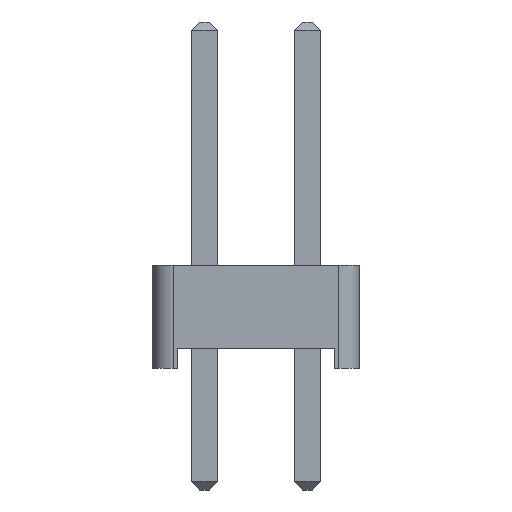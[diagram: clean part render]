
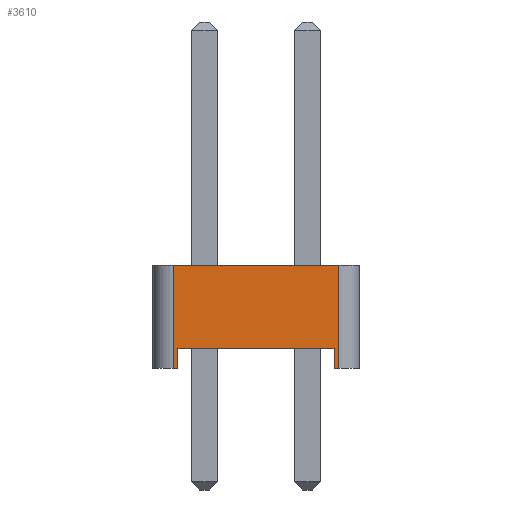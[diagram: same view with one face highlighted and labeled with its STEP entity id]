
A CAD part, left-side view. The second image highlights one B-rep face of the part: STEP entity #3610.
In plain terms, the highlighted planar face has unit normal (-1, 0, 0).
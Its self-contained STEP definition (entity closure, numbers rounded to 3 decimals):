
#3350 = VERTEX_POINT('',#3351);
#3351 = CARTESIAN_POINT('',(-1.27,2.04,0.));
#3359 = PLANE('',#3360);
#3360 = AXIS2_PLACEMENT_3D('',#3361,#3362,#3363);
#3361 = CARTESIAN_POINT('',(0.,0.,0.));
#3362 = DIRECTION('',(-0.,-0.,-1.));
#3363 = DIRECTION('',(-1.,0.,0.));
#3375 = CYLINDRICAL_SURFACE('',#3376,0.5);
#3376 = AXIS2_PLACEMENT_3D('',#3377,#3378,#3379);
#3377 = CARTESIAN_POINT('',(-0.77,2.04,0.));
#3378 = DIRECTION('',(0.,0.,1.));
#3379 = DIRECTION('',(0.,1.,0.));
#3477 = VERTEX_POINT('',#3478);
#3478 = CARTESIAN_POINT('',(-1.27,1.94,0.));
#3492 = PLANE('',#3493);
#3493 = AXIS2_PLACEMENT_3D('',#3494,#3495,#3496);
#3494 = CARTESIAN_POINT('',(1.27,1.94,0.));
#3495 = DIRECTION('',(0.,-1.,0.));
#3496 = DIRECTION('',(-1.,0.,0.));
#3504 = EDGE_CURVE('',#3477,#3350,#3505,.T.);
#3505 = SURFACE_CURVE('',#3506,(#3510,#3517),.PCURVE_S1.);
#3506 = LINE('',#3507,#3508);
#3507 = CARTESIAN_POINT('',(-1.27,-2.54,0.));
#3508 = VECTOR('',#3509,1.);
#3509 = DIRECTION('',(0.,1.,0.));
#3510 = PCURVE('',#3359,#3511);
#3511 = DEFINITIONAL_REPRESENTATION('',(#3512),#3516);
#3512 = LINE('',#3513,#3514);
#3513 = CARTESIAN_POINT('',(1.27,-2.54));
#3514 = VECTOR('',#3515,1.);
#3515 = DIRECTION('',(0.,1.));
#3516 = ( GEOMETRIC_REPRESENTATION_CONTEXT(2) 
PARAMETRIC_REPRESENTATION_CONTEXT() REPRESENTATION_CONTEXT('2D SPACE',''
  ) );
#3517 = PCURVE('',#3518,#3523);
#3518 = PLANE('',#3519);
#3519 = AXIS2_PLACEMENT_3D('',#3520,#3521,#3522);
#3520 = CARTESIAN_POINT('',(-1.27,-2.54,0.));
#3521 = DIRECTION('',(-1.,0.,0.));
#3522 = DIRECTION('',(0.,1.,0.));
#3523 = DEFINITIONAL_REPRESENTATION('',(#3524),#3528);
#3524 = LINE('',#3525,#3526);
#3525 = CARTESIAN_POINT('',(0.,0.));
#3526 = VECTOR('',#3527,1.);
#3527 = DIRECTION('',(1.,0.));
#3528 = ( GEOMETRIC_REPRESENTATION_CONTEXT(2) 
PARAMETRIC_REPRESENTATION_CONTEXT() REPRESENTATION_CONTEXT('2D SPACE',''
  ) );
#3534 = EDGE_CURVE('',#3350,#3535,#3537,.T.);
#3535 = VERTEX_POINT('',#3536);
#3536 = CARTESIAN_POINT('',(-1.27,2.04,2.54));
#3537 = SURFACE_CURVE('',#3538,(#3542,#3549),.PCURVE_S1.);
#3538 = LINE('',#3539,#3540);
#3539 = CARTESIAN_POINT('',(-1.27,2.04,0.));
#3540 = VECTOR('',#3541,1.);
#3541 = DIRECTION('',(0.,0.,1.));
#3542 = PCURVE('',#3375,#3543);
#3543 = DEFINITIONAL_REPRESENTATION('',(#3544),#3548);
#3544 = LINE('',#3545,#3546);
#3545 = CARTESIAN_POINT('',(1.571,0.));
#3546 = VECTOR('',#3547,1.);
#3547 = DIRECTION('',(0.,1.));
#3548 = ( GEOMETRIC_REPRESENTATION_CONTEXT(2) 
PARAMETRIC_REPRESENTATION_CONTEXT() REPRESENTATION_CONTEXT('2D SPACE',''
  ) );
#3549 = PCURVE('',#3518,#3550);
#3550 = DEFINITIONAL_REPRESENTATION('',(#3551),#3555);
#3551 = LINE('',#3552,#3553);
#3552 = CARTESIAN_POINT('',(4.58,0.));
#3553 = VECTOR('',#3554,1.);
#3554 = DIRECTION('',(0.,-1.));
#3555 = ( GEOMETRIC_REPRESENTATION_CONTEXT(2) 
PARAMETRIC_REPRESENTATION_CONTEXT() REPRESENTATION_CONTEXT('2D SPACE',''
  ) );
#3574 = PLANE('',#3575);
#3575 = AXIS2_PLACEMENT_3D('',#3576,#3577,#3578);
#3576 = CARTESIAN_POINT('',(0.,0.,2.54));
#3577 = DIRECTION('',(-0.,-0.,-1.));
#3578 = DIRECTION('',(-1.,0.,0.));
#3610 = ADVANCED_FACE('',(#3611),#3518,.T.);
#3611 = FACE_BOUND('',#3612,.T.);
#3612 = EDGE_LOOP('',(#3613,#3643,#3671,#3692,#3693,#3694,#3717,#3745));
#3613 = ORIENTED_EDGE('',*,*,#3614,.F.);
#3614 = EDGE_CURVE('',#3615,#3617,#3619,.T.);
#3615 = VERTEX_POINT('',#3616);
#3616 = CARTESIAN_POINT('',(-1.27,-2.04,0.));
#3617 = VERTEX_POINT('',#3618);
#3618 = CARTESIAN_POINT('',(-1.27,-1.94,0.));
#3619 = SURFACE_CURVE('',#3620,(#3624,#3631),.PCURVE_S1.);
#3620 = LINE('',#3621,#3622);
#3621 = CARTESIAN_POINT('',(-1.27,-2.54,0.));
#3622 = VECTOR('',#3623,1.);
#3623 = DIRECTION('',(0.,1.,0.));
#3624 = PCURVE('',#3518,#3625);
#3625 = DEFINITIONAL_REPRESENTATION('',(#3626),#3630);
#3626 = LINE('',#3627,#3628);
#3627 = CARTESIAN_POINT('',(0.,0.));
#3628 = VECTOR('',#3629,1.);
#3629 = DIRECTION('',(1.,0.));
#3630 = ( GEOMETRIC_REPRESENTATION_CONTEXT(2) 
PARAMETRIC_REPRESENTATION_CONTEXT() REPRESENTATION_CONTEXT('2D SPACE',''
  ) );
#3631 = PCURVE('',#3632,#3637);
#3632 = PLANE('',#3633);
#3633 = AXIS2_PLACEMENT_3D('',#3634,#3635,#3636);
#3634 = CARTESIAN_POINT('',(0.,0.,0.));
#3635 = DIRECTION('',(-0.,-0.,-1.));
#3636 = DIRECTION('',(-1.,0.,0.));
#3637 = DEFINITIONAL_REPRESENTATION('',(#3638),#3642);
#3638 = LINE('',#3639,#3640);
#3639 = CARTESIAN_POINT('',(1.27,-2.54));
#3640 = VECTOR('',#3641,1.);
#3641 = DIRECTION('',(0.,1.));
#3642 = ( GEOMETRIC_REPRESENTATION_CONTEXT(2) 
PARAMETRIC_REPRESENTATION_CONTEXT() REPRESENTATION_CONTEXT('2D SPACE',''
  ) );
#3643 = ORIENTED_EDGE('',*,*,#3644,.T.);
#3644 = EDGE_CURVE('',#3615,#3645,#3647,.T.);
#3645 = VERTEX_POINT('',#3646);
#3646 = CARTESIAN_POINT('',(-1.27,-2.04,2.54));
#3647 = SURFACE_CURVE('',#3648,(#3652,#3659),.PCURVE_S1.);
#3648 = LINE('',#3649,#3650);
#3649 = CARTESIAN_POINT('',(-1.27,-2.04,0.));
#3650 = VECTOR('',#3651,1.);
#3651 = DIRECTION('',(0.,0.,1.));
#3652 = PCURVE('',#3518,#3653);
#3653 = DEFINITIONAL_REPRESENTATION('',(#3654),#3658);
#3654 = LINE('',#3655,#3656);
#3655 = CARTESIAN_POINT('',(0.5,0.));
#3656 = VECTOR('',#3657,1.);
#3657 = DIRECTION('',(0.,-1.));
#3658 = ( GEOMETRIC_REPRESENTATION_CONTEXT(2) 
PARAMETRIC_REPRESENTATION_CONTEXT() REPRESENTATION_CONTEXT('2D SPACE',''
  ) );
#3659 = PCURVE('',#3660,#3665);
#3660 = CYLINDRICAL_SURFACE('',#3661,0.5);
#3661 = AXIS2_PLACEMENT_3D('',#3662,#3663,#3664);
#3662 = CARTESIAN_POINT('',(-0.77,-2.04,0.));
#3663 = DIRECTION('',(0.,0.,1.));
#3664 = DIRECTION('',(0.,-1.,0.));
#3665 = DEFINITIONAL_REPRESENTATION('',(#3666),#3670);
#3666 = LINE('',#3667,#3668);
#3667 = CARTESIAN_POINT('',(-1.571,0.));
#3668 = VECTOR('',#3669,1.);
#3669 = DIRECTION('',(-0.,1.));
#3670 = ( GEOMETRIC_REPRESENTATION_CONTEXT(2) 
PARAMETRIC_REPRESENTATION_CONTEXT() REPRESENTATION_CONTEXT('2D SPACE',''
  ) );
#3671 = ORIENTED_EDGE('',*,*,#3672,.T.);
#3672 = EDGE_CURVE('',#3645,#3535,#3673,.T.);
#3673 = SURFACE_CURVE('',#3674,(#3678,#3685),.PCURVE_S1.);
#3674 = LINE('',#3675,#3676);
#3675 = CARTESIAN_POINT('',(-1.27,-2.54,2.54));
#3676 = VECTOR('',#3677,1.);
#3677 = DIRECTION('',(0.,1.,0.));
#3678 = PCURVE('',#3518,#3679);
#3679 = DEFINITIONAL_REPRESENTATION('',(#3680),#3684);
#3680 = LINE('',#3681,#3682);
#3681 = CARTESIAN_POINT('',(0.,-2.54));
#3682 = VECTOR('',#3683,1.);
#3683 = DIRECTION('',(1.,0.));
#3684 = ( GEOMETRIC_REPRESENTATION_CONTEXT(2) 
PARAMETRIC_REPRESENTATION_CONTEXT() REPRESENTATION_CONTEXT('2D SPACE',''
  ) );
#3685 = PCURVE('',#3574,#3686);
#3686 = DEFINITIONAL_REPRESENTATION('',(#3687),#3691);
#3687 = LINE('',#3688,#3689);
#3688 = CARTESIAN_POINT('',(1.27,-2.54));
#3689 = VECTOR('',#3690,1.);
#3690 = DIRECTION('',(0.,1.));
#3691 = ( GEOMETRIC_REPRESENTATION_CONTEXT(2) 
PARAMETRIC_REPRESENTATION_CONTEXT() REPRESENTATION_CONTEXT('2D SPACE',''
  ) );
#3692 = ORIENTED_EDGE('',*,*,#3534,.F.);
#3693 = ORIENTED_EDGE('',*,*,#3504,.F.);
#3694 = ORIENTED_EDGE('',*,*,#3695,.T.);
#3695 = EDGE_CURVE('',#3477,#3696,#3698,.T.);
#3696 = VERTEX_POINT('',#3697);
#3697 = CARTESIAN_POINT('',(-1.27,1.94,0.5));
#3698 = SURFACE_CURVE('',#3699,(#3703,#3710),.PCURVE_S1.);
#3699 = LINE('',#3700,#3701);
#3700 = CARTESIAN_POINT('',(-1.27,1.94,0.));
#3701 = VECTOR('',#3702,1.);
#3702 = DIRECTION('',(0.,0.,1.));
#3703 = PCURVE('',#3518,#3704);
#3704 = DEFINITIONAL_REPRESENTATION('',(#3705),#3709);
#3705 = LINE('',#3706,#3707);
#3706 = CARTESIAN_POINT('',(4.48,0.));
#3707 = VECTOR('',#3708,1.);
#3708 = DIRECTION('',(0.,-1.));
#3709 = ( GEOMETRIC_REPRESENTATION_CONTEXT(2) 
PARAMETRIC_REPRESENTATION_CONTEXT() REPRESENTATION_CONTEXT('2D SPACE',''
  ) );
#3710 = PCURVE('',#3492,#3711);
#3711 = DEFINITIONAL_REPRESENTATION('',(#3712),#3716);
#3712 = LINE('',#3713,#3714);
#3713 = CARTESIAN_POINT('',(2.54,0.));
#3714 = VECTOR('',#3715,1.);
#3715 = DIRECTION('',(0.,-1.));
#3716 = ( GEOMETRIC_REPRESENTATION_CONTEXT(2) 
PARAMETRIC_REPRESENTATION_CONTEXT() REPRESENTATION_CONTEXT('2D SPACE',''
  ) );
#3717 = ORIENTED_EDGE('',*,*,#3718,.T.);
#3718 = EDGE_CURVE('',#3696,#3719,#3721,.T.);
#3719 = VERTEX_POINT('',#3720);
#3720 = CARTESIAN_POINT('',(-1.27,-1.94,0.5));
#3721 = SURFACE_CURVE('',#3722,(#3726,#3733),.PCURVE_S1.);
#3722 = LINE('',#3723,#3724);
#3723 = CARTESIAN_POINT('',(-1.27,1.94,0.5));
#3724 = VECTOR('',#3725,1.);
#3725 = DIRECTION('',(0.,-1.,0.));
#3726 = PCURVE('',#3518,#3727);
#3727 = DEFINITIONAL_REPRESENTATION('',(#3728),#3732);
#3728 = LINE('',#3729,#3730);
#3729 = CARTESIAN_POINT('',(4.48,-0.5));
#3730 = VECTOR('',#3731,1.);
#3731 = DIRECTION('',(-1.,0.));
#3732 = ( GEOMETRIC_REPRESENTATION_CONTEXT(2) 
PARAMETRIC_REPRESENTATION_CONTEXT() REPRESENTATION_CONTEXT('2D SPACE',''
  ) );
#3733 = PCURVE('',#3734,#3739);
#3734 = PLANE('',#3735);
#3735 = AXIS2_PLACEMENT_3D('',#3736,#3737,#3738);
#3736 = CARTESIAN_POINT('',(0.,0.,0.5));
#3737 = DIRECTION('',(0.,0.,1.));
#3738 = DIRECTION('',(1.,0.,0.));
#3739 = DEFINITIONAL_REPRESENTATION('',(#3740),#3744);
#3740 = LINE('',#3741,#3742);
#3741 = CARTESIAN_POINT('',(-1.27,1.94));
#3742 = VECTOR('',#3743,1.);
#3743 = DIRECTION('',(0.,-1.));
#3744 = ( GEOMETRIC_REPRESENTATION_CONTEXT(2) 
PARAMETRIC_REPRESENTATION_CONTEXT() REPRESENTATION_CONTEXT('2D SPACE',''
  ) );
#3745 = ORIENTED_EDGE('',*,*,#3746,.F.);
#3746 = EDGE_CURVE('',#3617,#3719,#3747,.T.);
#3747 = SURFACE_CURVE('',#3748,(#3752,#3759),.PCURVE_S1.);
#3748 = LINE('',#3749,#3750);
#3749 = CARTESIAN_POINT('',(-1.27,-1.94,0.));
#3750 = VECTOR('',#3751,1.);
#3751 = DIRECTION('',(0.,0.,1.));
#3752 = PCURVE('',#3518,#3753);
#3753 = DEFINITIONAL_REPRESENTATION('',(#3754),#3758);
#3754 = LINE('',#3755,#3756);
#3755 = CARTESIAN_POINT('',(0.6,0.));
#3756 = VECTOR('',#3757,1.);
#3757 = DIRECTION('',(0.,-1.));
#3758 = ( GEOMETRIC_REPRESENTATION_CONTEXT(2) 
PARAMETRIC_REPRESENTATION_CONTEXT() REPRESENTATION_CONTEXT('2D SPACE',''
  ) );
#3759 = PCURVE('',#3760,#3765);
#3760 = PLANE('',#3761);
#3761 = AXIS2_PLACEMENT_3D('',#3762,#3763,#3764);
#3762 = CARTESIAN_POINT('',(-1.27,-1.94,0.));
#3763 = DIRECTION('',(0.,1.,0.));
#3764 = DIRECTION('',(1.,0.,0.));
#3765 = DEFINITIONAL_REPRESENTATION('',(#3766),#3770);
#3766 = LINE('',#3767,#3768);
#3767 = CARTESIAN_POINT('',(0.,0.));
#3768 = VECTOR('',#3769,1.);
#3769 = DIRECTION('',(0.,-1.));
#3770 = ( GEOMETRIC_REPRESENTATION_CONTEXT(2) 
PARAMETRIC_REPRESENTATION_CONTEXT() REPRESENTATION_CONTEXT('2D SPACE',''
  ) );
